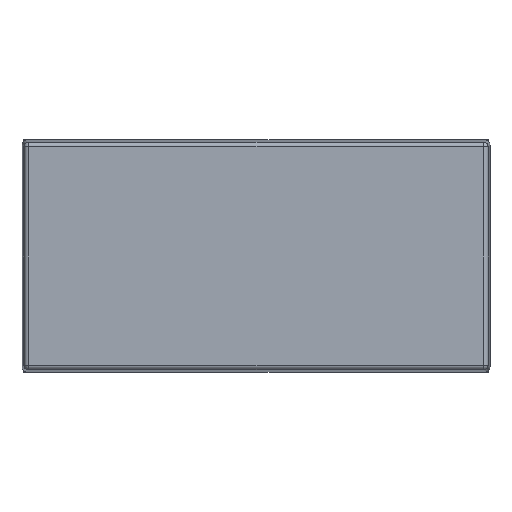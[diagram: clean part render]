
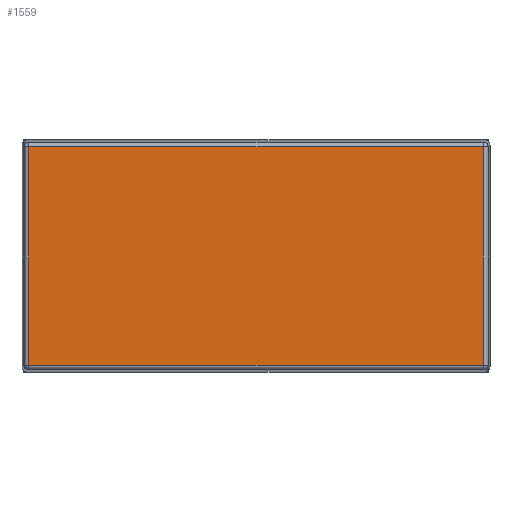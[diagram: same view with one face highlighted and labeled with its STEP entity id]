
A CAD part, left-side view. The second image highlights one B-rep face of the part: STEP entity #1559.
In plain terms, the highlighted planar face has unit normal (-1, 0, 0).
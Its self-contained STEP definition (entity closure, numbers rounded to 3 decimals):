
#139=FACE_OUTER_BOUND('',#236,.T.);
#236=EDGE_LOOP('',(#1283,#1284,#1285,#1286));
#387=LINE('',#2457,#579);
#394=LINE('',#2480,#586);
#402=LINE('',#2509,#594);
#403=LINE('',#2511,#595);
#579=VECTOR('',#1991,10.);
#586=VECTOR('',#2018,10.);
#594=VECTOR('',#2056,10.);
#595=VECTOR('',#2059,10.);
#742=VERTEX_POINT('',#2449);
#744=VERTEX_POINT('',#2455);
#750=VERTEX_POINT('',#2478);
#754=VERTEX_POINT('',#2492);
#915=EDGE_CURVE('',#744,#742,#387,.T.);
#927=EDGE_CURVE('',#750,#744,#394,.T.);
#942=EDGE_CURVE('',#742,#754,#402,.T.);
#943=EDGE_CURVE('',#754,#750,#403,.T.);
#1283=ORIENTED_EDGE('',*,*,#927,.F.);
#1284=ORIENTED_EDGE('',*,*,#943,.F.);
#1285=ORIENTED_EDGE('',*,*,#942,.F.);
#1286=ORIENTED_EDGE('',*,*,#915,.F.);
#1470=PLANE('',#1720);
#1559=ADVANCED_FACE('',(#139),#1470,.F.);
#1720=AXIS2_PLACEMENT_3D('',#2512,#2060,#2061);
#1991=DIRECTION('',(0.,-1.,0.));
#2018=DIRECTION('',(0.,0.,1.));
#2056=DIRECTION('',(0.,0.,-1.));
#2059=DIRECTION('',(0.,1.,0.));
#2060=DIRECTION('center_axis',(1.,0.,0.));
#2061=DIRECTION('ref_axis',(0.,-1.,0.));
#2449=CARTESIAN_POINT('',(-17121.466,4400.314,22.618));
#2455=CARTESIAN_POINT('',(-17121.466,4494.549,22.618));
#2457=CARTESIAN_POINT('',(-17121.466,4471.682,22.618));
#2478=CARTESIAN_POINT('',(-17121.466,4494.549,-22.618));
#2480=CARTESIAN_POINT('',(-17121.466,4494.549,-12.));
#2492=CARTESIAN_POINT('',(-17121.466,4400.314,-22.618));
#2509=CARTESIAN_POINT('',(-17121.466,4400.314,12.));
#2511=CARTESIAN_POINT('',(-17121.466,4423.182,-22.618));
#2512=CARTESIAN_POINT('Origin',(-17121.466,4447.432,0.));
